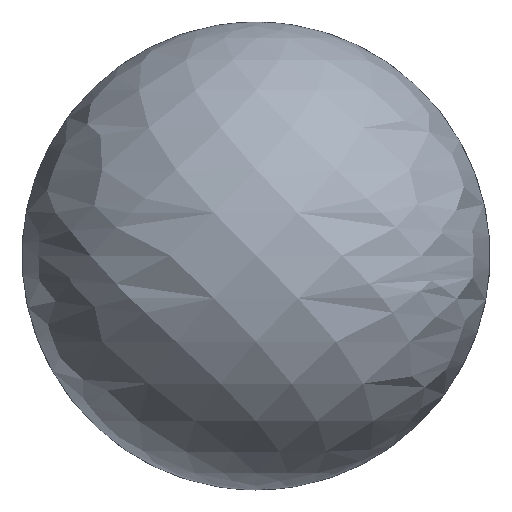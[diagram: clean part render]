
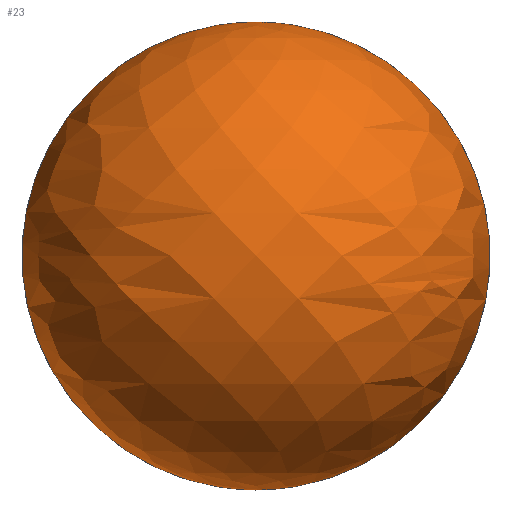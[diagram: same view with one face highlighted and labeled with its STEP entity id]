
A CAD part, top view. The second image highlights one B-rep face of the part: STEP entity #23.
In plain terms, the highlighted free-form (B-spline) face has degree [2, 2] with [9, 5] control points.
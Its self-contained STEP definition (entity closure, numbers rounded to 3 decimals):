
#23=ADVANCED_FACE('',(#42),#489,.T.);
#42=FACE_OUTER_BOUND('',#61,.T.);
#61=EDGE_LOOP('',(#85,#86));
#85=ORIENTED_EDGE('',*,*,#373,.T.);
#86=ORIENTED_EDGE('',*,*,#374,.T.);
#153=PCURVE('',#489,#221);
#154=PCURVE('',#489,#222);
#155=PCURVE('',#483,#223);
#156=PCURVE('',#483,#224);
#221=DEFINITIONAL_REPRESENTATION('',(#289),#1466);
#222=DEFINITIONAL_REPRESENTATION('',(#290),#1466);
#223=DEFINITIONAL_REPRESENTATION('',(#409),#1466);
#224=DEFINITIONAL_REPRESENTATION('',(#410),#1466);
#289=B_SPLINE_CURVE_WITH_KNOTS('',1,(#733,#734),.UNSPECIFIED.,.F.,.F.,(2,
2),(-70.686,70.686),.UNSPECIFIED.);
#290=B_SPLINE_CURVE_WITH_KNOTS('',1,(#740,#741),.UNSPECIFIED.,.F.,.F.,(2,
2),(-70.686,70.686),.UNSPECIFIED.);
#339=SURFACE_CURVE('',#407,(#153,#156),.PCURVE_S1.);
#340=SURFACE_CURVE('',#408,(#154,#155),.PCURVE_S1.);
#373=EDGE_CURVE('',#460,#459,#339,.T.);
#374=EDGE_CURVE('',#459,#460,#340,.T.);
#407=(
BOUNDED_CURVE()
B_SPLINE_CURVE(2,(#728,#729,#730,#731,#732),.UNSPECIFIED.,.F.,.F.)
B_SPLINE_CURVE_WITH_KNOTS((3,2,3),(-70.686,0.,70.686),
 .UNSPECIFIED.)
CURVE()
GEOMETRIC_REPRESENTATION_ITEM()
RATIONAL_B_SPLINE_CURVE((1.,0.707,1.,0.707,1.))
REPRESENTATION_ITEM('')
);
#408=(
BOUNDED_CURVE()
B_SPLINE_CURVE(2,(#735,#736,#737,#738,#739),.UNSPECIFIED.,.F.,.F.)
B_SPLINE_CURVE_WITH_KNOTS((3,2,3),(-70.686,0.,70.686),
 .UNSPECIFIED.)
CURVE()
GEOMETRIC_REPRESENTATION_ITEM()
RATIONAL_B_SPLINE_CURVE((1.,0.707,1.,0.707,1.))
REPRESENTATION_ITEM('')
);
#409=(
BOUNDED_CURVE()
B_SPLINE_CURVE(2,(#742,#743,#744,#745,#746),.UNSPECIFIED.,.F.,.F.)
B_SPLINE_CURVE_WITH_KNOTS((3,2,3),(-70.686,0.,70.686),
 .UNSPECIFIED.)
CURVE()
GEOMETRIC_REPRESENTATION_ITEM()
RATIONAL_B_SPLINE_CURVE((1.,0.707,1.,0.707,1.))
REPRESENTATION_ITEM('')
);
#410=(
BOUNDED_CURVE()
B_SPLINE_CURVE(2,(#747,#748,#749,#750,#751),.UNSPECIFIED.,.F.,.F.)
B_SPLINE_CURVE_WITH_KNOTS((3,2,3),(-70.686,0.,70.686),
 .UNSPECIFIED.)
CURVE()
GEOMETRIC_REPRESENTATION_ITEM()
RATIONAL_B_SPLINE_CURVE((1.,0.707,1.,0.707,1.))
REPRESENTATION_ITEM('')
);
#459=VERTEX_POINT('',#719);
#460=VERTEX_POINT('',#720);
#483=B_SPLINE_SURFACE_WITH_KNOTS('',1,1,((#641,#642),(#643,#644)),
 .UNSPECIFIED.,.F.,.F.,.F.,(2,2),(2,2),(0.,202.455),(0.,293.534),
 .UNSPECIFIED.);
#489=(
BOUNDED_SURFACE()
B_SPLINE_SURFACE(2,2,((#596,#597,#598,#599,#600),(#601,#602,#603,#604,#605),
(#606,#607,#608,#609,#610),(#611,#612,#613,#614,#615),(#616,#617,#618,#619,
#620),(#621,#622,#623,#624,#625),(#626,#627,#628,#629,#630),(#631,#632,
#633,#634,#635),(#636,#637,#638,#639,#640)),.UNSPECIFIED.,.T.,.F.,.F.)
B_SPLINE_SURFACE_WITH_KNOTS((3,2,2,2,3),(3,2,3),(0.,70.686,141.372,
212.058,282.743),(-70.686,0.,70.686),
 .UNSPECIFIED.)
GEOMETRIC_REPRESENTATION_ITEM()
RATIONAL_B_SPLINE_SURFACE(((1.,0.707,1.,0.707,1.),
(0.707,0.5,0.707,0.5,0.707),(1.,0.707,
1.,0.707,1.),(0.707,0.5,0.707,0.5,0.707),
(1.,0.707,1.,0.707,1.),(0.707,0.5,0.707,
0.5,0.707),(1.,0.707,1.,0.707,1.),(0.707,
0.5,0.707,0.5,0.707),(1.,0.707,1.,0.707,
1.)))
REPRESENTATION_ITEM('')
SURFACE()
);
#596=CARTESIAN_POINT('',(563.293,-139.105,58.437));
#597=CARTESIAN_POINT('',(563.293,-139.105,-1.563));
#598=CARTESIAN_POINT('',(563.293,-199.105,-1.563));
#599=CARTESIAN_POINT('',(563.293,-259.105,-1.563));
#600=CARTESIAN_POINT('',(563.293,-259.105,58.437));
#601=CARTESIAN_POINT('',(563.293,-139.105,58.437));
#602=CARTESIAN_POINT('',(623.293,-139.105,-1.563));
#603=CARTESIAN_POINT('',(623.293,-199.105,-1.563));
#604=CARTESIAN_POINT('',(623.293,-259.105,-1.563));
#605=CARTESIAN_POINT('',(563.293,-259.105,58.437));
#606=CARTESIAN_POINT('',(563.293,-139.105,58.437));
#607=CARTESIAN_POINT('',(623.293,-139.105,58.437));
#608=CARTESIAN_POINT('',(623.293,-199.105,58.437));
#609=CARTESIAN_POINT('',(623.293,-259.105,58.437));
#610=CARTESIAN_POINT('',(563.293,-259.105,58.437));
#611=CARTESIAN_POINT('',(563.293,-139.105,58.437));
#612=CARTESIAN_POINT('',(623.293,-139.105,118.437));
#613=CARTESIAN_POINT('',(623.293,-199.105,118.437));
#614=CARTESIAN_POINT('',(623.293,-259.105,118.437));
#615=CARTESIAN_POINT('',(563.293,-259.105,58.437));
#616=CARTESIAN_POINT('',(563.293,-139.105,58.437));
#617=CARTESIAN_POINT('',(563.293,-139.105,118.437));
#618=CARTESIAN_POINT('',(563.293,-199.105,118.437));
#619=CARTESIAN_POINT('',(563.293,-259.105,118.437));
#620=CARTESIAN_POINT('',(563.293,-259.105,58.437));
#621=CARTESIAN_POINT('',(563.293,-139.105,58.437));
#622=CARTESIAN_POINT('',(503.293,-139.105,118.437));
#623=CARTESIAN_POINT('',(503.293,-199.105,118.437));
#624=CARTESIAN_POINT('',(503.293,-259.105,118.437));
#625=CARTESIAN_POINT('',(563.293,-259.105,58.437));
#626=CARTESIAN_POINT('',(563.293,-139.105,58.437));
#627=CARTESIAN_POINT('',(503.293,-139.105,58.437));
#628=CARTESIAN_POINT('',(503.293,-199.105,58.437));
#629=CARTESIAN_POINT('',(503.293,-259.105,58.437));
#630=CARTESIAN_POINT('',(563.293,-259.105,58.437));
#631=CARTESIAN_POINT('',(563.293,-139.105,58.437));
#632=CARTESIAN_POINT('',(503.293,-139.105,-1.563));
#633=CARTESIAN_POINT('',(503.293,-199.105,-1.563));
#634=CARTESIAN_POINT('',(503.293,-259.105,-1.563));
#635=CARTESIAN_POINT('',(563.293,-259.105,58.437));
#636=CARTESIAN_POINT('',(563.293,-139.105,58.437));
#637=CARTESIAN_POINT('',(563.293,-139.105,-1.563));
#638=CARTESIAN_POINT('',(563.293,-199.105,-1.563));
#639=CARTESIAN_POINT('',(563.293,-259.105,-1.563));
#640=CARTESIAN_POINT('',(563.293,-259.105,58.437));
#641=CARTESIAN_POINT('',(425.913,-328.934,58.437));
#642=CARTESIAN_POINT('',(817.292,-328.934,58.437));
#643=CARTESIAN_POINT('',(425.913,-58.993,58.437));
#644=CARTESIAN_POINT('',(817.292,-58.993,58.437));
#719=CARTESIAN_POINT('',(563.293,-139.105,58.437));
#720=CARTESIAN_POINT('',(563.293,-259.105,58.437));
#728=CARTESIAN_POINT('',(563.293,-259.105,58.437));
#729=CARTESIAN_POINT('',(623.293,-259.105,58.437));
#730=CARTESIAN_POINT('',(623.293,-199.105,58.437));
#731=CARTESIAN_POINT('',(623.293,-139.105,58.437));
#732=CARTESIAN_POINT('',(563.293,-139.105,58.437));
#733=CARTESIAN_POINT('',(70.686,70.686));
#734=CARTESIAN_POINT('',(70.686,-70.686));
#735=CARTESIAN_POINT('',(563.293,-139.105,58.437));
#736=CARTESIAN_POINT('',(503.293,-139.105,58.437));
#737=CARTESIAN_POINT('',(503.293,-199.105,58.437));
#738=CARTESIAN_POINT('',(503.293,-259.105,58.437));
#739=CARTESIAN_POINT('',(563.293,-259.105,58.437));
#740=CARTESIAN_POINT('',(212.058,-70.686));
#741=CARTESIAN_POINT('',(212.058,70.686));
#742=CARTESIAN_POINT('',(142.372,103.035));
#743=CARTESIAN_POINT('',(142.372,58.035));
#744=CARTESIAN_POINT('',(97.372,58.035));
#745=CARTESIAN_POINT('',(52.372,58.035));
#746=CARTESIAN_POINT('',(52.372,103.035));
#747=CARTESIAN_POINT('',(52.372,103.035));
#748=CARTESIAN_POINT('',(52.372,148.035));
#749=CARTESIAN_POINT('',(97.372,148.035));
#750=CARTESIAN_POINT('',(142.372,148.035));
#751=CARTESIAN_POINT('',(142.372,103.035));
#1466=(
GEOMETRIC_REPRESENTATION_CONTEXT(2)
PARAMETRIC_REPRESENTATION_CONTEXT()
REPRESENTATION_CONTEXT('pspace','')
);
